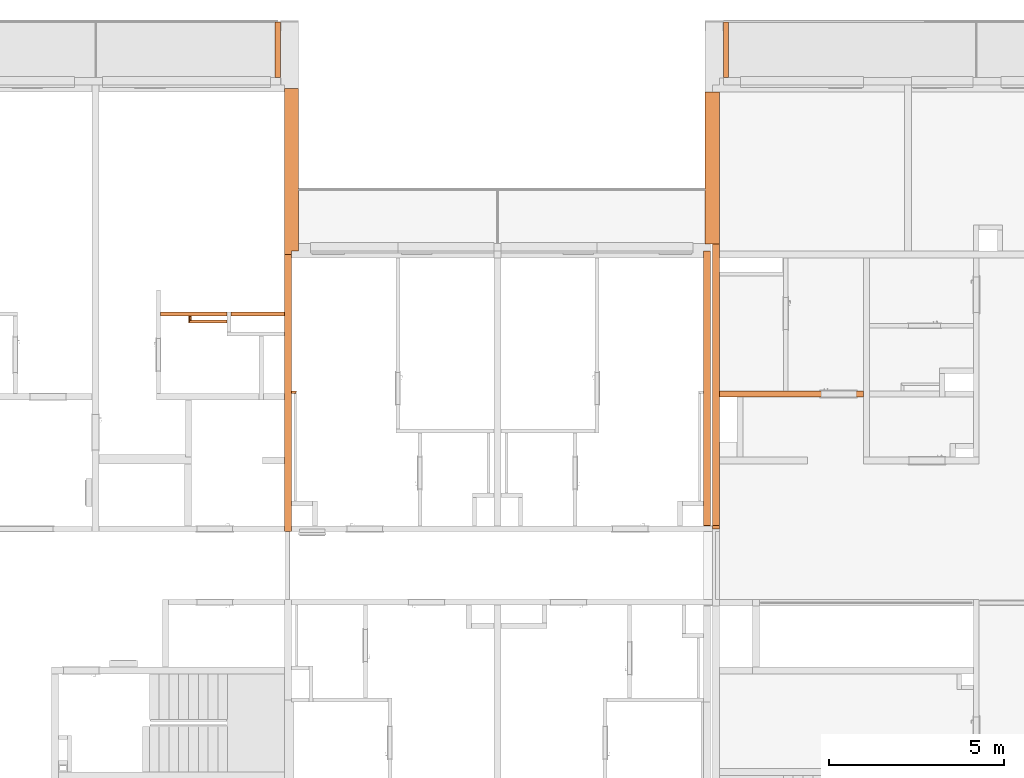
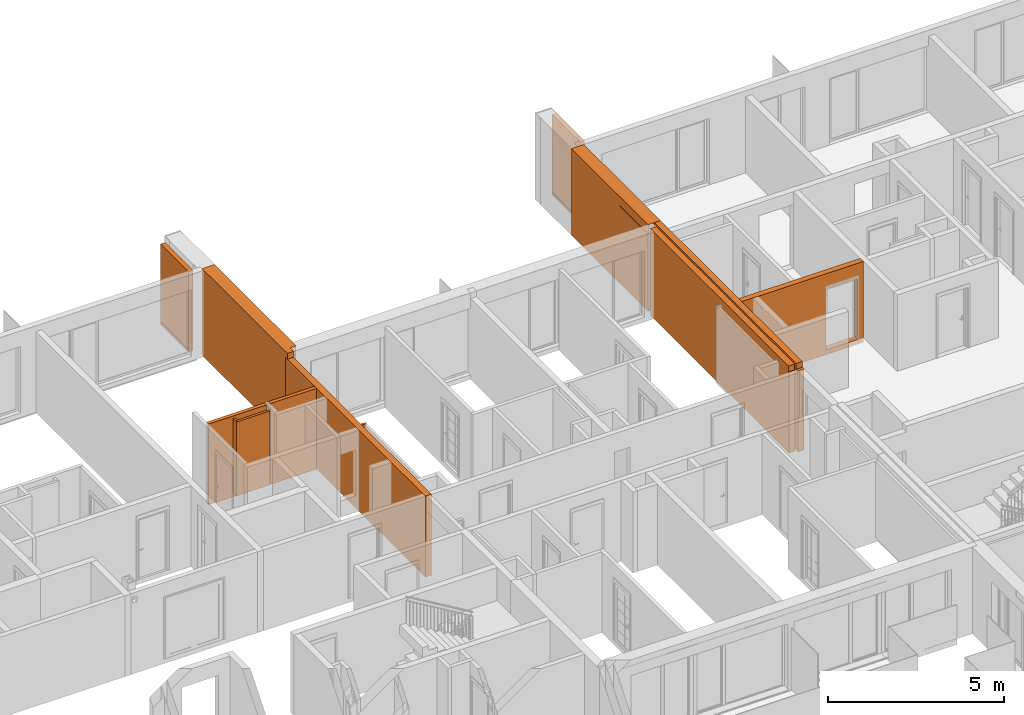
# One storey, part 60 of 64: 12 proxies, 1 opening.
"""IFC2X3 building model written with IfcOpenShell, lengths in millimetres."""

from ifc_helpers import new_model, entity, si_unit, converted_unit, derived_unit, money_unit, direction, frame, origin_with_axes, origin_2d_with_axis, place, context, subcontext, project, spatial, rectangle, extrude, faceted_brep, material, material_list, type_object, element, save


model = new_model("IFC2X3")

# Units and contexts
model_context = context("Model", 3, precision=0.01, world=origin_with_axes(), true_north=direction((0.34421633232, 0.938890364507)))
body_context = subcontext(model_context, "Body", "Model", "MODEL_VIEW")
ifc_project = project(units=[si_unit("LENGTHUNIT", "METRE", prefix="MILLI"), si_unit("AREAUNIT", "SQUARE_METRE"), si_unit("VOLUMEUNIT", "CUBIC_METRE"), converted_unit("PLANEANGLEUNIT", "DEGREE", entity("IfcPlaneAngleMeasure", 0.0174532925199), si_unit("PLANEANGLEUNIT", "RADIAN"), dimensions=[0, 0, 0, 0, 0, 0, 0]), si_unit("SOLIDANGLEUNIT", "STERADIAN"), money_unit("USD"), converted_unit("TIMEUNIT", "Year", entity("IfcTimeMeasure", 31556926.0), si_unit("TIMEUNIT", "SECOND"), dimensions=[0, 0, 1, 0, 0, 0, 0]), si_unit("MASSUNIT", "GRAM", prefix="KILO"), si_unit("THERMODYNAMICTEMPERATUREUNIT", "DEGREE_CELSIUS"), si_unit("LUMINOUSINTENSITYUNIT", "LUMEN"), si_unit("ENERGYUNIT", "JOULE", prefix="MEGA"), derived_unit("THERMALCONDUCTANCEUNIT", [(si_unit("POWERUNIT", "WATT"), 1), (si_unit("LENGTHUNIT", "METRE"), -1), (si_unit("THERMODYNAMICTEMPERATUREUNIT", "KELVIN"), -1)]), derived_unit("SPECIFICHEATCAPACITYUNIT", [(si_unit("ENERGYUNIT", "JOULE"), 1), (si_unit("MASSUNIT", "GRAM", prefix="KILO"), -1), (si_unit("THERMODYNAMICTEMPERATUREUNIT", "KELVIN"), -1)]), derived_unit("MASSDENSITYUNIT", [(si_unit("MASSUNIT", "GRAM", prefix="KILO"), 1), (si_unit("VOLUMEUNIT", "CUBIC_METRE"), -1)])], contexts=[model_context])

# Site, building, storey
site_placement = place(None, origin_with_axes())
site = spatial("IfcSite", under=ifc_project, at=site_placement, Name="USTRONIE MORSKIE", CompositionType="ELEMENT")
building_placement = place(site_placement, origin_with_axes())
building = spatial("IfcBuilding", under=site, at=building_placement, Name="Budynek", CompositionType="ELEMENT")
storey_placement = place(building_placement, frame((0.0, 0.0, 7000.0), z_axis=(0.0, 0.0, 1.0), x_axis=(1.0, 0.0, 0.0)))
storey = spatial("IfcBuildingStorey", under=building, at=storey_placement, Name="PIĘTRO 2", CompositionType="ELEMENT", Elevation=7000.0)

# Proxies
ifc_material_1 = material(Name="Bloczki silikatowe")
building_element_proxy_type_1 = type_object("IfcBuildingElementProxyType", Name="Bloczki silikatowe 120", PredefinedType="NOTDEFINED")
proxy_1_placement = place(storey_placement, frame((392617.911316, 743001.199021, -160.0), z_axis=(0.0, 0.0, 1.0), x_axis=(1.0, 0.0, 0.0)))
element("IfcBuildingElementProxy", 1, at=proxy_1_placement, inside=storey, type_object=building_element_proxy_type_1, material=ifc_material_1, Name="SW-04", context=body_context, shape_type="Brep", body=[
    faceted_brep([(60.0, 59.9999999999, 0.0), (60.0, 59.9999999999, 2800.0), (1960.00960271, 59.9999999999, 2800.0), (1960.00960271, 59.9999999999, 0.0), (60.0, -59.9999999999, 0.0), (60.0, -59.9999999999, 2800.0), (1960.00960271, -59.9999999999, 2800.0), (1960.00960271, -59.9999999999, 0.0)], [[[0, 1, 2, 3]], [[4, 5, 1, 0]], [[5, 6, 2, 1]], [[3, 2, 6, 7]], [[4, 0, 3, 7]], [[7, 6, 5, 4]]]),
    faceted_brep([(2080.00960271, 59.9999999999, 0.0), (2080.00960271, 59.9999999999, 2800.0), (3600.00527934, 59.9999999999, 2800.0), (3600.00759654, 59.9999999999, 0.0), (2080.00960271, -59.9999999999, 0.0), (2080.00960271, -59.9999999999, 2800.0), (3600.00527934, -59.9999999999, 2800.0), (3600.00744975, -59.9999999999, 0.0)], [[[0, 1, 2, 3]], [[4, 5, 1, 0]], [[2, 1, 5, 6]], [[6, 7, 3, 2]], [[3, 7, 4, 0]], [[6, 5, 4, 7]]]),
])
ifc_material_2 = material(Name="Tynk zewnętrzny")
ifc_material_3 = material(Name="Wełna ELEW")
ifc_material_4 = material(Name="Beton konstrukcyjny B25")
ifc_material_list_1 = material_list([ifc_material_2, ifc_material_3, ifc_material_4])
building_element_proxy_type_2 = type_object("IfcBuildingElementProxyType", Name="20+20 410", PredefinedType="NOTDEFINED")
proxy_2_placement = place(storey_placement, frame((408567.920919, 745001.199036, -160.0), z_axis=(0.0, 0.0, 1.0), x_axis=(0.0, 1.0, 0.0)))
element("IfcBuildingElementProxy", 2, at=proxy_2_placement, inside=storey, type_object=building_element_proxy_type_2, material=ifc_material_list_1, Name="SZ-01", context=body_context, shape_type="Brep", body=[
    faceted_brep([(1599.99509907, 300.0, 2985.0), (1599.99509907, 300.0, 2675.0), (-0.000373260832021, 300.0, 2675.0), (0.000147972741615, 300.0, 110.0), (1599.99509907, 300.0, 110.0), (1599.99509907, 300.0, 0.0), (4350.0002527, 300.0, 0.0), (4350.0002527, 300.0, 3000.0), (0.0, 300.0, 3000.0), (-0.000373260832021, 300.0, 2985.0), (1599.99509907, 310.0, 2985.0), (1599.99509907, 310.0, 2675.0), (-0.000361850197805, 310.0, 2675.0), (0.000159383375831, 310.0, 110.0), (1599.99509907, 310.0, 110.0), (1599.99509907, 310.0, 0.0), (4350.00026112, 310.0, 0.0), (4350.00026112, 310.0, 3000.0), (0.0, 310.0, 3000.0), (-0.000361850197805, 310.0, 2985.0)], [[[0, 1, 2, 3, 4, 5, 6, 7, 8, 9]], [[0, 10, 11, 1]], [[2, 1, 11, 12]], [[2, 12, 13, 3]], [[4, 3, 13, 14]], [[4, 14, 15, 5]], [[5, 15, 16, 6]], [[16, 17, 7, 6]], [[8, 7, 17, 18]], [[19, 9, 8, 18]], [[0, 9, 19, 10]], [[10, 19, 18, 17, 16, 15, 14, 13, 12, 11]]]),
    faceted_brep([(0.0, 100.0, 0.0), (4350.00008423, 100.0, 0.0), (4350.00008423, 100.0, 3000.0), (0.0, 100.0, 3000.0), (0.0, 300.0, 0.0), (4350.0002527, 300.0, 0.0), (4350.0002527, 300.0, 3000.0), (0.0, 300.0, 3000.0)], [[[0, 1, 2, 3]], [[4, 5, 1, 0]], [[5, 6, 2, 1]], [[3, 2, 6, 7]], [[7, 4, 0, 3]], [[7, 6, 5, 4]]]),
    faceted_brep([(4349.99991577, -100.0, -8.13678013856e-08), (4349.99991577, -100.0, 3000.0), (0.0, -100.0, 3000.0), (0.0, -100.0, 0.0), (4350.00008423, 100.0, 3000.0), (4350.00008423, 100.0, -4.94591034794e-08), (0.0, 100.0, 3000.0), (0.0, 100.0, 0.0)], [[[0, 1, 2, 3]], [[4, 1, 0, 5]], [[1, 4, 6, 2]], [[7, 3, 2, 6]], [[5, 0, 3, 7]], [[4, 5, 7, 6]]]),
])
ifc_material_list_2 = material_list([ifc_material_4, ifc_material_3, ifc_material_2])
proxy_3_placement = place(storey_placement, frame((396317.921306, 744701.199031, -160.0), z_axis=(0.0, 0.0, 1.0), x_axis=(-8.14523828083e-08, 1.0, 0.0)))
element("IfcBuildingElementProxy", 3, at=proxy_3_placement, inside=storey, type_object=building_element_proxy_type_2, material=ifc_material_list_2, Name="SZ-01", context=body_context, shape_type="Brep", body=[
    faceted_brep([(-99.9719344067, 100.000008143, 3000.0), (-99.9724135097, -99.999991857, 3000.0), (4750.00000517, -100.000386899, 3000.0), (4750.00002146, 99.9996131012, 3000.0), (-99.9724135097, -99.999991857, 2800.0), (-99.9719344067, 100.000020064, 2800.0), (1.71048668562e-05, -100.0, 2800.0), (1.71048668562e-05, -100.0, 0.0), (4750.00000517, -100.000386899, 0.0), (4750.00002146, 99.9996131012, 0.0), (3.33953948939e-05, 100.000011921, 0.0), (3.33953948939e-05, 100.000011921, 2800.0)], [[[0, 1, 2, 3]], [[4, 1, 0, 5]], [[1, 4, 6, 7, 8, 2]], [[3, 2, 8, 9]], [[5, 0, 3, 9, 10, 11]], [[4, 5, 11, 6]], [[11, 10, 7, 6]], [[9, 8, 7, 10]]]),
    faceted_brep([(100.000282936, -100.000008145, 3000.0), (100.000282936, -100.000008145, 0.0), (100.000266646, -300.000019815, 0.0), (100.000266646, -300.000008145, 3000.0), (4750.00002146, -100.000386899, 0.0), (4750.00002146, -100.000386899, 3000.0), (4750.00000517, -300.000386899, 0.0), (4750.00000517, -300.000386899, 3000.0)], [[[0, 1, 2, 3]], [[4, 1, 0, 5]], [[6, 2, 1, 4]], [[3, 2, 6, 7]], [[5, 0, 3, 7]], [[5, 7, 6, 4]]]),
    faceted_brep([(300.013409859, -310.000024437, 110.0), (1899.99507899, -310.000154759, 110.0), (1899.99507899, -310.000154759, 0.0), (4750.00000517, -310.000386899, 0.0), (4750.00000517, -310.000386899, 3000.0), (300.000265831, -310.000024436, 3000.0), (300.000265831, -310.000024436, 0.0), (300.013409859, -310.000024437, 0.0), (300.012888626, -310.000024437, 2985.0), (1899.99507899, -310.000154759, 2985.0), (1899.99507899, -310.000154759, 2675.0), (300.012888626, -310.000024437, 2675.0), (300.013422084, -299.999916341, 110.0), (1899.99507981, -300.000046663, 110.0), (1899.99507981, -300.000046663, 0.0), (4750.00000598, -300.000386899, 0.0), (4750.00000598, -300.000386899, 3000.0), (300.000266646, -300.000024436, 3000.0), (300.000266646, -300.000030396, 0.0), (300.013422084, -299.999916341, 0.0), (300.012900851, -299.999637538, 2985.0), (1899.99507981, -299.99976786, 2985.0), (1899.99507981, -299.99976786, 2675.0), (300.012900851, -299.999637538, 2675.0)], [[[0, 1, 2, 3, 4, 5, 6, 7], [8, 9, 10, 11]], [[1, 0, 12, 13]], [[1, 13, 14, 2]], [[2, 14, 15, 3]], [[16, 4, 3, 15]], [[16, 17, 5, 4]], [[17, 18, 6, 5]], [[19, 7, 6, 18]], [[12, 0, 7, 19]], [[9, 8, 20, 21]], [[9, 21, 22, 10]], [[11, 10, 22, 23]], [[20, 8, 11, 23]], [[12, 19, 18, 17, 16, 15, 14, 13], [20, 23, 22, 21]]]),
])

# Proxy, opening
building_element_proxy_type_3 = type_object("IfcBuildingElementProxyType", Name="Bloczki silikatowe 180", PredefinedType="NOTDEFINED")
proxy_4_placement = place(storey_placement, frame((412877.920963, 740711.179476, -160.0), z_axis=(0.0, 0.0, 1.0), x_axis=(-1.0, 0.0, 0.0)))
proxy_4 = element("IfcBuildingElementProxy", 4, at=proxy_4_placement, inside=storey, type_object=building_element_proxy_type_3, material=ifc_material_1, Name="SW-02", context=body_context, shape_type="Brep", body=[
    faceted_brep([(4210.0000443, 90.0, 0.0), (4210.0000443, -90.0, 0.0), (90.0, -90.0, 0.0), (90.0, 90.0, 0.0), (4210.0000443, 90.0, 2800.0), (4210.0000443, -90.0, 2800.0), (90.0, -90.0, 2800.0), (90.0, 90.0, 2800.0)], [[[0, 1, 2, 3]], [[1, 0, 4, 5]], [[1, 5, 6, 2]], [[7, 3, 2, 6]], [[4, 0, 3, 7]], [[5, 4, 7, 6]]]),
])
opening_placement = place(proxy_4_placement, frame((800.0, 0.0, 160.0), z_axis=(0.0, 0.0, 1.0), x_axis=(1.0, 0.0, 0.0)))
element("IfcOpeningElement", 5, at=opening_placement, cuts=proxy_4, Name="Dw.1", context=body_context, shape_type="SweptSolid", body=[
    extrude(rectangle(XDim=1020.0, YDim=2120.0, at=origin_2d_with_axis()), frame((0.0, 180.0, 1060.0), z_axis=(0.0, -1.0, 0.0), x_axis=(-1.0, 0.0, 0.0)), (0.0, 0.0, 1.0), 540.0),
    extrude(rectangle(XDim=1094.0, YDim=2227.0, at=origin_2d_with_axis()), frame((0.0, 89.9999999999, 1113.5), z_axis=(0.0, -1.0, 0.0), x_axis=(-1.0, 0.0, 0.0)), (0.0, 0.0, -1.0), 180.0),
    extrude(rectangle(XDim=1094.0, YDim=2227.0, at=origin_2d_with_axis()), frame((0.0, -90.0, 1113.5), z_axis=(0.0, 1.0, 0.0), x_axis=(-1.0, 0.0, 0.0)), (0.0, 0.0, -1.0), 180.0),
])

# Proxies
ifc_material_5 = material(Name="Płyta GK")
ifc_material_6 = material(Name="-Pustka powietrzna")
ifc_material_list_3 = material_list([ifc_material_5, ifc_material_5, ifc_material_6])
building_element_proxy_type_4 = type_object("IfcBuildingElementProxyType", Name="330-SD GK 2-warstwy 75", PredefinedType="NOTDEFINED")
proxy_5_placement = place(storey_placement, frame((393502.920919, 742771.199021, -160.0), z_axis=(0.0, 0.0, 1.0), x_axis=(0.0, 1.0, 0.0)))
element("IfcBuildingElementProxy", 6, at=proxy_5_placement, inside=storey, type_object=building_element_proxy_type_4, material=ifc_material_list_3, Name="Ściana-009", context=body_context, shape_type="Brep", body=[
    faceted_brep([(-12.5, 12.5, 145.0), (170.0, 12.5, 145.0), (170.0, 12.5, 2710.0), (-12.5, 12.5, 2710.0), (170.0, 25.0, 145.0), (-12.5, 25.0, 145.0), (170.0, 25.0, 2710.0), (-12.5, 25.0, 2710.0)], [[[0, 1, 2, 3]], [[4, 1, 0, 5]], [[1, 4, 6, 2]], [[2, 6, 7, 3]], [[5, 0, 3, 7]], [[4, 5, 7, 6]]]),
    faceted_brep([(0.0, 0.0, 145.0), (170.0, 0.0, 145.0), (170.0, 0.0, 2710.0), (0.0, 0.0, 2710.0), (170.0, 12.5, 145.0), (0.0, 12.5, 145.0), (170.0, 12.5, 2710.0), (0.0, 12.5, 2710.0)], [[[0, 1, 2, 3]], [[4, 1, 0, 5]], [[1, 4, 6, 2]], [[2, 6, 7, 3]], [[5, 0, 3, 7]], [[4, 5, 7, 6]]]),
    faceted_brep([(50.0, -50.0, 160.0), (170.0, -50.0, 160.0), (170.0, -50.0, 2710.0), (50.0, -50.0, 2710.0), (170.0, 0.0, 160.0), (50.0, 0.0, 160.0), (170.0, 0.0, 2710.0), (50.0, 0.0, 2710.0)], [[[0, 1, 2, 3]], [[4, 1, 0, 5]], [[1, 4, 6, 2]], [[2, 6, 7, 3]], [[5, 0, 3, 7]], [[4, 5, 7, 6]]]),
])
proxy_6_placement = place(storey_placement, frame((396317.920919, 740771.202288, -180.0), z_axis=(0.0, 0.0, 1.0), x_axis=(1.0, 0.0, 0.0)))
element("IfcBuildingElementProxy", 7, at=proxy_6_placement, inside=storey, type_object=building_element_proxy_type_4, material=ifc_material_list_3, Name="Ściana-009", context=body_context, shape_type="Brep", body=[
    faceted_brep([(254.977879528, 12.5, 165.0), (254.977879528, 25.0, 165.0), (254.977879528, 25.0, 2820.0), (254.977879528, 12.5, 2820.0), (99.9952231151, 25.0, 165.0), (99.9952078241, 12.5, 165.0), (99.9952231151, 25.0, 2820.0), (99.9952078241, 12.5, 2820.0)], [[[0, 1, 2, 3]], [[4, 1, 0, 5]], [[1, 4, 6, 2]], [[2, 6, 7, 3]], [[5, 0, 3, 7]], [[4, 5, 7, 6]]]),
    faceted_brep([(242.477879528, 0.0, 165.0), (242.477879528, 12.5, 165.0), (242.477879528, 12.5, 2820.0), (242.477879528, 0.0, 2820.0), (99.9952078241, 12.5, 165.0), (99.9951925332, 0.0, 165.0), (99.9952078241, 12.5, 2820.0), (99.9951925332, 0.0, 2820.0)], [[[0, 1, 2, 3]], [[4, 1, 0, 5]], [[1, 4, 6, 2]], [[2, 6, 7, 3]], [[5, 0, 3, 7]], [[4, 5, 7, 6]]]),
    faceted_brep([(229.977879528, -50.0, 180.0), (229.977879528, 0.0, 180.0), (229.977879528, 0.0, 2820.0), (229.977879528, -50.0, 2820.0), (99.9951925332, 0.0, 180.0), (99.9951313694, -50.0, 180.0), (99.9951925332, 0.0, 2820.0), (99.9951313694, -50.0, 2820.0)], [[[0, 1, 2, 3]], [[4, 1, 0, 5]], [[1, 4, 6, 2]], [[2, 6, 7, 3]], [[5, 0, 3, 7]], [[4, 5, 7, 6]]]),
])
ifc_material_list_4 = material_list([ifc_material_6, ifc_material_5, ifc_material_5])
proxy_7_placement = place(storey_placement, frame((393502.920919, 742771.199021, -160.0), z_axis=(0.0, 0.0, 1.0), x_axis=(1.0, 0.0, 0.0)))
element("IfcBuildingElementProxy", 8, at=proxy_7_placement, inside=storey, type_object=building_element_proxy_type_4, material=ifc_material_list_4, Name="Ściana-009", context=body_context, shape_type="Brep", body=[
    faceted_brep([(1075.0, 0.0, 160.0), (1075.0, 50.0, 160.0), (1075.0, 50.0, 2710.0), (1075.0, 0.0, 2710.0), (0.0, 50.0, 160.0), (0.0, 0.0, 160.0), (0.0, 50.0, 2710.0), (0.0, 0.0, 2710.0)], [[[0, 1, 2, 3]], [[4, 1, 0, 5]], [[1, 4, 6, 2]], [[3, 2, 6, 7]], [[5, 0, 3, 7]], [[4, 5, 7, 6]]]),
    faceted_brep([(1075.0, -12.5, 145.0), (1075.0, 0.0, 145.0), (1075.0, 0.0, 2710.0), (1075.0, -12.5, 2710.0), (-12.5, 0.0, 145.0), (-12.5, -12.5, 145.0), (-12.5, 0.0, 2710.0), (-12.5, -12.5, 2710.0)], [[[0, 1, 2, 3]], [[4, 1, 0, 5]], [[1, 4, 6, 2]], [[3, 2, 6, 7]], [[5, 0, 3, 7]], [[4, 5, 7, 6]]]),
    faceted_brep([(1075.0, -25.0, 145.0), (1075.0, -12.5, 145.0), (1075.0, -12.5, 2710.0), (1075.0, -25.0, 2710.0), (-25.0, -12.5, 145.0), (-25.0, -25.0, 145.0), (-25.0, -12.5, 2710.0), (-25.0, -25.0, 2710.0)], [[[0, 1, 2, 3]], [[4, 1, 0, 5]], [[1, 4, 6, 2]], [[3, 2, 6, 7]], [[5, 0, 3, 7]], [[4, 5, 7, 6]]]),
])
building_element_proxy_type_5 = type_object("IfcBuildingElementProxyType", Name="Beton konstrukcyjny B25 200", PredefinedType="NOTDEFINED")
proxy_8_placement = place(storey_placement, frame((396317.911316, 736851.199036, -160.0), z_axis=(0.0, 0.0, 1.0), x_axis=(1.2232750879e-06, 0.999999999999, 0.0)))
element("IfcBuildingElementProxy", 9, at=proxy_8_placement, inside=storey, type_object=building_element_proxy_type_5, material=ifc_material_4, Name="SW-01", context=body_context, shape_type="Brep", body=[
    faceted_brep([(7850.00000001, -100.0, 0.0), (-79.9998776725, -100.0, 0.0), (-80.0001223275, 100.0, 0.0), (7850.00000001, 100.0, 0.0), (7850.00000001, -100.0, 2800.0), (-79.9998776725, -100.0, 2800.0), (-80.0001223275, 100.0, 2800.0), (7850.00000001, 100.0, 2800.0)], [[[0, 1, 2, 3]], [[4, 5, 1, 0]], [[6, 2, 1, 5]], [[3, 2, 6, 7]], [[7, 4, 0, 3]], [[7, 6, 5, 4]]]),
])
proxy_9_placement = place(storey_placement, frame((408317.920919, 744701.199036, -160.0), z_axis=(0.0, 0.0, 1.0), x_axis=(0.0, -1.0, 0.0)))
element("IfcBuildingElementProxy", 10, at=proxy_9_placement, inside=storey, type_object=building_element_proxy_type_5, material=ifc_material_4, Name="SW-01", context=body_context, shape_type="Brep", body=[
    faceted_brep([(-100.000283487, -100.0, 3000.0), (7750.0, -100.0, 3000.0), (7750.0, 100.0, 3000.0), (-100.000288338, 100.0, 3000.0), (7770.0, -100.0, 2800.0), (7750.0, -100.0, 2800.0), (-100.000283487, -100.0, 0.0), (7770.0, -100.0, 0.0), (7750.0, 100.0, 2800.0), (7770.0, 100.0, 2800.0), (7770.0, 100.0, 0.0), (-100.000288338, 100.0, 0.0)], [[[0, 1, 2, 3]], [[4, 5, 1, 0, 6, 7]], [[5, 8, 2, 1]], [[2, 8, 9, 10, 11, 3]], [[11, 6, 0, 3]], [[4, 9, 8, 5]], [[6, 11, 10, 7]], [[10, 9, 4, 7]]]),
])
proxy_10_placement = place(storey_placement, frame((408567.920919, 745001.199036, -160.0), z_axis=(0.0, 0.0, 1.0), x_axis=(0.0, -1.0, 0.0)))
element("IfcBuildingElementProxy", 11, at=proxy_10_placement, inside=storey, type_object=building_element_proxy_type_5, material=ifc_material_4, Name="SW-01", context=body_context, shape_type="Brep", body=[
    faceted_brep([(0.0, -100.0, 3000.0), (8050.0, -100.0, 3000.0), (8050.0, 100.0, 3000.0), (0.0, 100.0, 3000.0), (8150.0, -100.0, 2800.0), (8050.0, -100.0, 2800.0), (0.0, -100.0, 0.0), (8150.0, -100.0, 0.0), (8050.0, 100.0, 2800.0), (8150.0, 100.0, 2800.0), (8150.0, 100.0, 0.0), (0.0, 100.0, 0.0)], [[[0, 1, 2, 3]], [[4, 5, 1, 0, 6, 7]], [[5, 8, 2, 1]], [[2, 8, 9, 10, 11, 3]], [[11, 6, 0, 3]], [[4, 9, 8, 5]], [[10, 7, 6, 11]], [[10, 9, 4, 7]]]),
])
ifc_material_7 = material(Name="Laminat")
building_element_proxy_type_6 = type_object("IfcBuildingElementProxyType", Name="Laminat 150", PredefinedType="NOTDEFINED")
proxy_11_placement = place(storey_placement, frame((408852.787991, 749761.04617, -160.0), z_axis=(0.0, 0.0, 1.0), x_axis=(-9.14543759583e-06, 0.999999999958, 0.0)))
element("IfcBuildingElementProxy", 12, at=proxy_11_placement, inside=storey, type_object=building_element_proxy_type_6, material=ifc_material_7, Name="SW-03", context=body_context, shape_type="Brep", body=[
    faceted_brep([(0.0, -75.0, 9.99999740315), (0.0, 75.0, 9.99999742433), (1589.99972369, 75.0, 10.0000009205), (1589.994468, -75.0, 9.99999972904), (0.0, -75.0, 2789.99999183), (-0.000681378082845, 75.0, 2789.99999183), (1589.994468, 74.9999999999, 2789.99999183), (1547.49980813, 75.0, 84.9999951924), (1547.49980813, 75.0, 14.9999951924), (1572.49971536, 75.0, 14.9999951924), (1572.49971536, 75.0, 109.999995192), (4.99980812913, 75.0, 109.999995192), (4.99980812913, 75.0, 84.9999951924), (1589.994468, -75.0, 2789.99999183), (1572.49971536, -75.0, 14.9999951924), (1547.49980813, -75.0, 14.9999951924), (1547.49980813, -75.0, 84.9999951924), (4.99980812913, -75.0, 84.9999951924), (4.99980812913, -75.0, 109.999995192), (1572.49971536, -75.0, 109.999995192)], [[[0, 1, 2, 3]], [[4, 5, 1, 0]], [[2, 1, 5, 6], [7, 8, 9, 10, 11, 12]], [[3, 2, 6, 13]], [[0, 3, 13, 4], [14, 15, 16, 17, 18, 19]], [[13, 6, 5, 4]], [[15, 8, 7, 16]], [[14, 9, 8, 15]], [[19, 10, 9, 14]], [[18, 11, 10, 19]], [[17, 12, 11, 18]], [[16, 7, 12, 17]]]),
])
proxy_12_placement = place(storey_placement, frame((396032.78799, 749761.196429, -160.0), z_axis=(0.0, 0.0, 1.0), x_axis=(-9.14543760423e-06, 0.999999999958, 0.0)))
element("IfcBuildingElementProxy", 13, at=proxy_12_placement, inside=storey, type_object=building_element_proxy_type_6, material=ifc_material_7, Name="SW-03", context=body_context, shape_type="Brep", body=[
    faceted_brep([(0.0, -75.0, 9.99999623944), (0.0, 75.0, 9.99999510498), (1589.99972369, 75.0, 10.0000009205), (1589.99972369, -74.9999999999, 10.0000009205), (-0.000681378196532, -75.0, 2789.99999183), (0.0, 75.0, 2789.99999183), (1589.99981809, 75.0, 2789.99999183), (4.99980812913, 75.0, 109.999995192), (4.99980812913, 75.0, 84.9999951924), (1547.49980813, 75.0, 84.9999951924), (1547.49980813, 75.0, 14.9999951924), (1572.49971536, 75.0, 14.9999951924), (1572.49971536, 75.0, 109.999995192), (1589.99981809, -75.0000000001, 2789.99999183), (1547.49980813, -74.9999999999, 84.9999951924), (4.99980812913, -75.0, 84.9999951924), (4.99980812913, -75.0, 109.999995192), (1572.49971536, -74.9999999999, 109.999995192), (1572.49971536, -74.9999999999, 14.9999951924), (1547.49980813, -74.9999999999, 14.9999951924)], [[[0, 1, 2, 3]], [[4, 5, 1, 0]], [[6, 2, 1, 5], [7, 8, 9, 10, 11, 12]], [[3, 2, 6, 13]], [[0, 3, 13, 4], [14, 15, 16, 17, 18, 19]], [[13, 6, 5, 4]], [[15, 8, 7, 16]], [[14, 9, 8, 15]], [[19, 10, 9, 14]], [[18, 11, 10, 19]], [[17, 12, 11, 18]], [[16, 7, 12, 17]]]),
])

save(model, "model.ifc")
